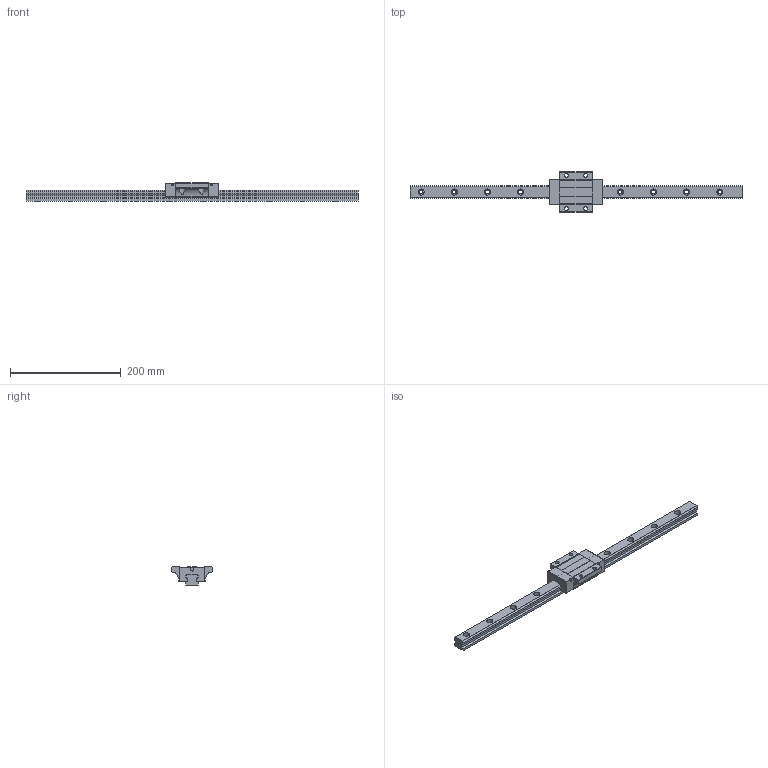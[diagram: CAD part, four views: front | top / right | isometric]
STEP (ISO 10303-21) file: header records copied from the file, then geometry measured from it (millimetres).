
FILE_DESCRIPTION (( 'STEP AP203' ), '1' );
FILE_NAME ('TRS25FN-DU.STEP', '2024-07-11T02:37:59', ( '' ), ( '' ), 'SwSTEP 2.0', 'SolidWorks 2022', '' );
FILE_SCHEMA (( 'CONFIG_CONTROL_DESIGN' ));
Length unit declared in the file: millimetre
Products named in the file (1): TRS25FN-DU
Bounding box: 600 x 73 x 33 mm (x, y, z)
Volume: 341693.7 mm3; surface area: 82968.2 mm2
Topology: 2 solids, 2 shells, 230 faces, 614 edges, 400 vertices
Faces by surface type: cylinder 126, plane 100, sphere 4
Entity records: 7971 total; most frequent: CARTESIAN_POINT 1955, DIRECTION 1274, ORIENTED_EDGE 1220, EDGE_CURVE 610, AXIS2_PLACEMENT_3D 459, VERTEX_POINT 400, LINE 356, VECTOR 356
